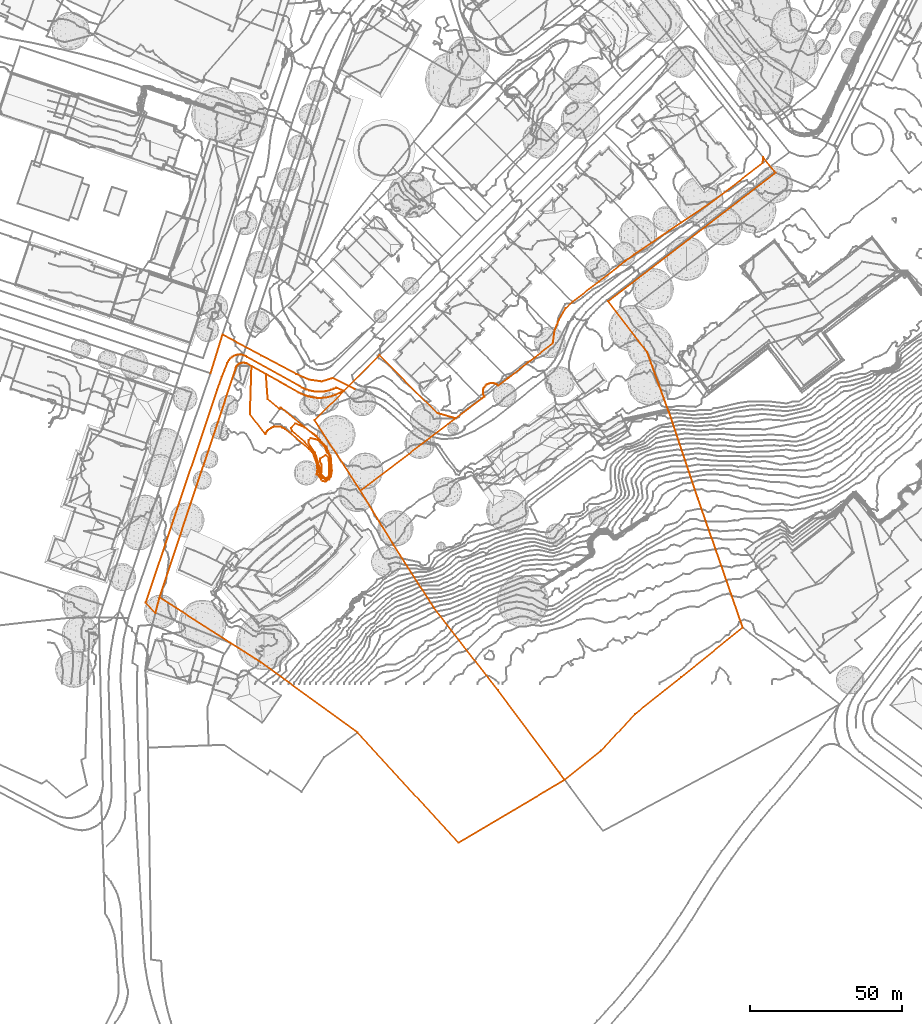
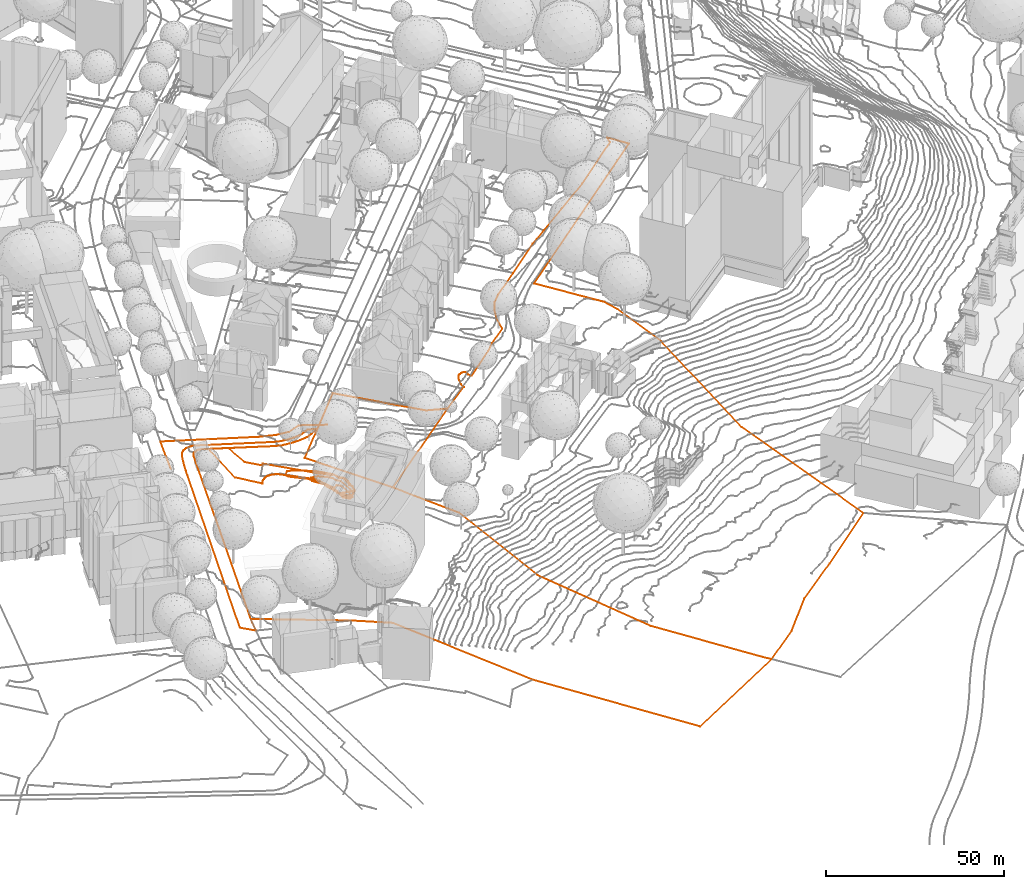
# Not in any storey, part 102 of 477: 6 geographic elements, 5 civil elements.
"""IFC4 model written with IfcOpenShell, lengths in metres."""

from ifc_helpers import new_model, entity, si_unit, frame, origin_with_axes, place, context, subcontext, project, spatial, element, save


model = new_model("IFC4")

# Units and contexts
model_context = context("Model", 3, precision=1e-05, world=origin_with_axes())
body_context = subcontext(model_context, "Body", "Model", "MODEL_VIEW")
ifc_project = project(units=[si_unit("AREAUNIT", "SQUARE_METRE"), si_unit("LENGTHUNIT", "METRE")], contexts=[model_context])

# Sites
site_1_placement = place(None, origin_with_axes())
site_1 = spatial("IfcSite", under=ifc_project, at=site_1_placement, Name="Topoexport Site")
site_2_placement = place(site_1_placement, origin_with_axes())
site_2 = spatial("IfcSite", under=site_1, at=site_2_placement, Name="TPX_ROADS")

# Civil elements
civil_element_1_placement = place(site_2_placement, frame((52.6617320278, 101.2267400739, 529.468), z_axis=(0.0, 0.0, 1.0), x_axis=(1.0, 0.0, 0.0)))
element("IfcCivilElement", 1, at=civil_element_1_placement, inside=site_2, Name="Road 51", ObjectType="ROAD", context=body_context, shape_type="GeometricCurveSet", body=[
    entity("IfcGeometricCurveSet", [entity("IfcIndexedPolyCurve", entity("IfcCartesianPointList3D", [[0.0, 0.0, 0.0], [3.9649999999, 12.7749996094, 0.321]]))]),
])
civil_element_2_placement = place(site_2_placement, frame((56.6267320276, 114.0017396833, 529.789), z_axis=(0.0, 0.0, 1.0), x_axis=(1.0, 0.0, 0.0)))
element("IfcCivilElement", 2, at=civil_element_2_placement, inside=site_2, Name="Road 144", ObjectType="ROAD", context=body_context, shape_type="GeometricCurveSet", body=[
    entity("IfcGeometricCurveSet", [entity("IfcIndexedPolyCurve", entity("IfcCartesianPointList3D", [[0.0, 0.0, 0.0], [12.7819999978, -6.8169997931, 0.502], [24.2289999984, -12.9209996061, 0.952], [28.6349999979, -14.8309995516, 1.174], [32.7459999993, -15.4179995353, 1.194], [36.4169999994, -14.2429995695, 1.405]]))]),
])
civil_element_3_placement = place(site_2_placement, frame((93.0437320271, 99.7587401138, 531.194), z_axis=(0.0, 0.0, 1.0), x_axis=(1.0, 0.0, 0.0)))
element("IfcCivilElement", 3, at=civil_element_3_placement, inside=site_2, Name="Road 152", ObjectType="ROAD", context=body_context, shape_type="GeometricCurveSet", body=[
    entity("IfcGeometricCurveSet", [entity("IfcIndexedPolyCurve", entity("IfcCartesianPointList3D", [[0.0, 0.0, 0.0], [7.1950000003, -3.6719998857, -0.081]]))]),
])

# Site
site_3_placement = place(site_1_placement, origin_with_axes())
site_3 = spatial("IfcSite", under=site_1, at=site_3_placement, Name="TPX_ROADS_OUTLINES")

# Civil elements
civil_element_4_placement = place(site_3_placement, frame((65.6917320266, 87.8627160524, 530.1721185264), z_axis=(0.0, 0.0, 1.0), x_axis=(1.0, 0.0, 0.0)))
element("IfcCivilElement", 4, at=civil_element_4_placement, inside=site_3, Name="Roads Outline 5", ObjectType="ROAD", context=body_context, shape_type="GeometricCurveSet", body=[
    entity("IfcGeometricCurveSet", [entity("IfcIndexedPolyCurve", entity("IfcCartesianPointList3D", [[0.0, 0.0, 0.0], [0.5130000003, 15.7679999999, 0.0338455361], [5.2779999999, 13.1140000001, 0.261026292], [5.855, 4.8470000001, 0.2600616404], [9.736, 1.571, -0.2818026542], [10.1660000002, 2.145, -0.1248423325], [22.4339999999, -8.068, -1.6127279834], [23.0970000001, -8.6580000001, -1.4725893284], [23.7150000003, -9.2930000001, -1.5986600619], [24.2860000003, -9.9720000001, -1.4724593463], [24.807, -10.6899999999, -1.5019773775], [25.3030000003, -11.4950000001, -0.9444887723], [25.736, -12.335, -1.0435754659], [26.102, -13.2069999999, -1.403093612], [26.3999999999, -14.1040000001, -0.6911966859], [26.6329999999, -15.0320000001, -0.4477806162], [26.7910000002, -15.9750000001, -0.4591269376], [26.8740000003, -16.9280000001, -0.4591866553], [26.8810000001, -17.885, -0.8025907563], [26.8289999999, -18.673, -0.780968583], [26.7260000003, -19.456, -0.5564165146], [26.571, -20.2309999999, -0.5767110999], [26.3670000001, -20.993, -0.6204464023], [26.1120000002, -21.7409999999, -0.5713972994], [25.9270000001, -21.665, -0.580164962], [22.1189999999, -20.0889999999, -0.9610308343], [21.9330000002, -20.0120000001, -0.9261870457], [22.0950000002, -19.423, -1.3556489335], [22.213, -18.8230000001, -1.5857013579], [22.2860000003, -18.216, -1.5670811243], [22.3140000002, -17.605, -1.7700222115], [22.2940000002, -16.9680000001, -1.9510494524], [22.2250000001, -16.335, -2.0730131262], [22.1070000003, -15.71, -2.1577706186], [21.9399999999, -15.095, -2.1484826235], [21.6830000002, -14.4240000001, -2.0581615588], [21.3640000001, -13.781, -1.9871576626], [20.986, -13.1710000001, -1.652196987], [20.551, -12.5989999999, -1.3839870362], [20.0640000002, -12.071, -1.144698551], [19.5290000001, -11.5919999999, -0.4269015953], [11.5980000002, -5.0109999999, 0.0112830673], [11.1430000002, -4.693, 0.0817293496], [10.6499999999, -4.439, 0.0984159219], [10.1269999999, -4.2520000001, 0.0967733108], [9.585, -4.1359999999, 0.1305304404], [9.031, -4.0930000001, 0.1258897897], [8.477, -4.1240000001, 0.1183343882], [7.932, -4.2280000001, 0.1759402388], [7.4190000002, -4.398, 0.2134765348], [6.932, -4.632, 0.2151942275], [6.48, -4.9269999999, 0.2046788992], [6.0690000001, -5.2779999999, 0.1727443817], [5.7069999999, -5.679, 0.1719773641], [5.3999999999, -6.1240000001, 0.1903218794], [5.1520000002, -6.6040000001, 0.1618089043], [4.969, -6.524, 0.1608507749], [0.0, 0.0, 0.0]]))]),
])
civil_element_5_placement = place(site_3_placement, frame((31.3317320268, 25.6087160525, 528.5172780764), z_axis=(0.0, 0.0, 1.0), x_axis=(1.0, 0.0, 0.0)))
element("IfcCivilElement", 5, at=civil_element_5_placement, inside=site_3, Name="Roads Outline 11", ObjectType="ROAD", context=body_context, shape_type="GeometricCurveSet", body=[
    entity("IfcGeometricCurveSet", [entity("IfcIndexedPolyCurve", entity("IfcCartesianPointList3D", [[0.0, 0.0, 0.0], [23.551, 70.165, 1.1981964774], [24.2880000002, 72.3199999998, 1.2486813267], [25.0669999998, 74.46, 1.2780287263], [25.9529999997, 76.7449999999, 1.3423059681], [26.8900000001, 79.01, 1.3856055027], [27.1260000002, 79.5459999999, 1.382832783], [27.4339999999, 80.0459999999, 1.4010026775], [27.8059999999, 80.4989999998, 1.4265829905], [28.236, 80.8969999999, 1.4369361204], [28.716, 81.233, 1.451369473], [29.2379999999, 81.5009999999, 1.4669401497], [29.7909999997, 81.6949999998, 1.4810749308], [30.2579999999, 81.797, 1.4937965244], [30.7340000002, 81.845, 1.5085522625], [31.2119999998, 81.841, 1.5186594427], [31.6869999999, 81.784, 1.5275002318], [32.1519999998, 81.6739999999, 1.5290784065], [32.6179999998, 81.507, 1.5296960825], [33.0619999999, 81.2879999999, 1.5427963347], [33.477, 81.0179999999, 1.5646540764], [50.699, 71.4539999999, 2.4177189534], [51.4709999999, 71.014, 2.4647378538], [52.2710000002, 70.6299999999, 2.499819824], [53.0970000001, 70.3029999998, 2.5440938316], [53.943, 70.034, 2.5790860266], [54.8059999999, 69.825, 2.6166156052], [55.716, 69.6739999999, 2.6498947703], [56.6340000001, 69.5889999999, 2.6801726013], [57.5559999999, 69.5699999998, 2.6975659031], [58.477, 69.6189999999, 2.7155324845], [59.392, 69.7339999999, 2.7243952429], [60.2889999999, 69.9439999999, 2.749862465], [61.1699999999, 70.213, 2.7743457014], [62.031, 70.5379999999, 2.7730193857], [62.8700000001, 70.919, 2.7851582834], [65.2889999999, 69.8589999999, 2.8338857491], [62.5890000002, 68.615, 2.6965142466], [61.7999999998, 68.3, 2.6796508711], [60.9920000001, 68.0379999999, 2.6849713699], [60.1680000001, 67.8289999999, 2.7335690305], [59.3330000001, 67.675, 2.7725246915], [58.4890000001, 67.575, 2.7869623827], [57.4869999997, 67.5289999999, 2.7695924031], [56.4840000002, 67.5600000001, 2.7362431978], [55.486, 67.669, 2.6776107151], [54.5, 67.8540000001, 2.6307313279], [53.6579999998, 68.0419999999, 2.5827809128], [52.8309999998, 68.2849999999, 2.5178027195], [52.0219999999, 68.5819999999, 2.4976904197], [51.2340000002, 68.932, 2.4338487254], [50.4709999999, 69.334, 2.4014606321], [39.6379999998, 75.368, 1.9158667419], [34.8730000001, 78.0219999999, 1.6886859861], [33.4539999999, 78.8129999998, 1.600644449], [33.1090000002, 78.987, 1.5933528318], [32.7420000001, 79.105, 1.5855703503], [32.3599999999, 79.166, 1.5659167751], [31.9739999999, 79.1669999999, 1.5457688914], [31.5920000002, 79.1089999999, 1.5252182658], [31.2239999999, 78.9919999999, 1.5056748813], [30.8760000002, 78.831, 1.4899875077], [30.557, 78.6189999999, 1.4802681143], [30.2739999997, 78.3599999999, 1.4710618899], [30.034, 78.061, 1.4620793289], [29.8429999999, 77.7290000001, 1.452834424], [29.7039999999, 77.372, 1.4445892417], [4.5079999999, 1.7009999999, 0.4025342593], [3.1839999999, -3.432, -0.0044481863], [0.0, 0.0, 0.0]]))]),
])

# Site
site_4_placement = place(site_1_placement, origin_with_axes())
site_4 = spatial("IfcSite", under=site_1, at=site_4_placement, Name="TPX_CADASTRES")

# Geographic elements
geographic_element_1_placement = place(site_4_placement, frame((35.8397320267, 27.3097160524, 528.9198123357), z_axis=(0.0, 0.0, 1.0), x_axis=(1.0, 0.0, 0.0)))
element("IfcGeographicElement", 6, at=geographic_element_1_placement, inside=site_4, Name="Cadastre 90", PredefinedType="NOTDEFINED", context=body_context, shape_type="GeometricCurveSet", body=[
    entity("IfcGeometricCurveSet", [entity("IfcIndexedPolyCurve", entity("IfcCartesianPointList3D", [[0.0, 0.0, 0.0], [25.196, 75.6710000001, 1.0420549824], [25.335, 76.0280000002, 1.0503001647], [25.5260000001, 76.3600000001, 1.0595450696], [25.7659999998, 76.659, 1.0685276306], [26.0490000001, 76.9180000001, 1.077733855], [26.3680000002, 77.1300000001, 1.0874532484], [26.716, 77.291, 1.1031406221], [27.0840000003, 77.4080000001, 1.1226840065], [27.466, 77.466, 1.1432346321], [27.852, 77.4650000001, 1.1633825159], [28.2340000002, 77.4040000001, 1.1830360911], [28.6010000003, 77.2860000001, 1.1908185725], [28.946, 77.112, 1.1981101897], [45.963, 67.6330000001, 1.9989263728], [46.7260000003, 67.2310000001, 2.0313144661], [47.514, 66.8810000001, 2.0951561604], [48.3229999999, 66.584, 2.1152684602], [49.1499999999, 66.341, 2.1802466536], [49.9920000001, 66.1530000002, 2.2281970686], [50.9780000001, 65.9680000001, 2.2750764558], [51.9760000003, 65.8590000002, 2.3337089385], [52.9789999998, 65.828, 2.3670581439], [53.9810000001, 65.8740000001, 2.3844281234], [54.8250000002, 65.9740000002, 2.3699904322], [55.6600000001, 66.128, 2.3310347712], [56.4840000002, 66.3370000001, 2.2824371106], [57.2919999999, 66.5990000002, 2.2771166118], [58.0810000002, 66.9140000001, 2.2939799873], [60.9909999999, 68.2550000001, 2.440349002], [51.2009999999, 58.5420000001, 1.6569705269], [66.327, 35.2709999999, 0.3445971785], [77.3340000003, 17.2390000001, -1.2014758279], [90.6699999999, -3.5259999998, -14.573134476], [111.6660000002, -30.578, -22.9106450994], [131.9610000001, -57.7339999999, -24.0988105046], [133.7310000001, -60.1639999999, -24.0894003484], [98.6839999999, -80.9039999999, -22.2397467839], [65.4199999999, -44.5600000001, -16.6383814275], [33.4760000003, -21.443, -0.0451216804], [23.6779999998, -15.1639999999, 0.378507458], [0.0, 0.0, 0.0]]))]),
])
geographic_element_2_placement = place(site_4_placement, frame((102.1667320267, 62.5807160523, 529.2644095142), z_axis=(0.0, 0.0, 1.0), x_axis=(1.0, 0.0, 0.0)))
element("IfcGeographicElement", 7, at=geographic_element_2_placement, inside=site_4, Name="Cadastre 93", PredefinedType="NOTDEFINED", context=body_context, shape_type="GeometricCurveSet", body=[
    entity("IfcGeometricCurveSet", [entity("IfcIndexedPolyCurve", entity("IfcCartesianPointList3D", [[0.0, 0.0, 0.0], [31.4279999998, 23.848, 1.5576566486], [39.9670000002, 30.3200000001, 1.4281709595], [40.8969999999, 31.03, 1.3230256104], [40.6740000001, 31.4540000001, 1.4578496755], [40.523, 31.9080000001, 1.8262137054], [40.449, 32.3810000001, 2.27642148], [40.4530000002, 32.8600000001, 2.6594337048], [40.5359999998, 33.3320000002, 2.8537439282], [40.6949999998, 33.7830000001, 2.8698311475], [40.926, 34.2030000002, 2.8816245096], [41.2229999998, 34.5790000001, 2.8896372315], [41.577, 34.9010000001, 2.895335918], [41.9759999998, 35.1590000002, 2.8988881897], [42.4109999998, 35.348, 2.8978973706], [42.8709999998, 35.4640000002, 2.8918779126], [43.344, 35.5040000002, 2.8047201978], [43.818, 35.466, 2.6692175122], [44.2779999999, 35.3520000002, 2.3379484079], [44.7140000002, 35.165, 1.7410820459], [45.1140000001, 34.9090000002, 1.3685524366], [45.4670000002, 34.591, 1.4858642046], [48.6770000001, 37.0920000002, 1.557079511], [55.176, 42.1440000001, 1.9046598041], [57.3859999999, 43.8650000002, 2.703374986], [63.426, 48.5560000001, 2.7774298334], [64.0260000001, 52.7270000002, 3.4549306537], [65.466, 56.4680000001, 3.5007206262], [67.6660000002, 60.1390000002, 3.3792201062], [69.9759999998, 62.2790000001, 3.7064632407], [78.7250000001, 69.0220000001, 3.9945995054], [87.355, 75.6740000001, 4.4274226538], [90.2250000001, 77.885, 4.6369138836], [95.9739999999, 81.7660000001, 4.7475556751], [105.8029999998, 88.3990000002, 4.966612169], [116.503, 95.611, 5.2884707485], [132.6869999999, 108.0860000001, 6.267161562], [132.841, 110.0560000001, 6.488893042], [136.8909999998, 104.8560000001, 6.1319225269], [81.6940000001, 62.4510000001, 3.3544682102], [94.591, 45.6600000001, 2.7719029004], [96.3110000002, 40.9100000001, 2.4708180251], [101.7390000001, 25.9710000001, -1.2275680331], [111.3560000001, -2.6189999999, -16.6664958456], [126.1310000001, -45.1679999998, -25.4623999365], [105.7220000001, -61.6039999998, -25.5795038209], [90.5430000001, -73.7279999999, -24.9655506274], [79.4330000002, -85.8019999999, -24.8659850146], [67.4040000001, -95.4349999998, -24.4339975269], [65.6340000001, -93.0049999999, -24.4434076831], [45.3390000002, -65.8489999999, -23.2552422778], [24.3429999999, -38.7969999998, -14.9177316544], [11.0070000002, -18.0319999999, -1.5460730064], [0.0, 0.0, 0.0]]))]),
])
geographic_element_3_placement = place(site_4_placement, frame((87.0407320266, 85.8517160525, 530.5767828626), z_axis=(0.0, 0.0, 1.0), x_axis=(1.0, 0.0, 0.0)))
element("IfcGeographicElement", 8, at=geographic_element_3_placement, inside=site_4, Name="Cadastre 105", PredefinedType="NOTDEFINED", context=body_context, shape_type="GeometricCurveSet", body=[
    entity("IfcGeometricCurveSet", [entity("IfcIndexedPolyCurve", entity("IfcCartesianPointList3D", [[0.0, 0.0, 0.0], [9.79, 9.713, 0.783378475], [21.449, 21.3659999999, 1.6842178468], [40.5250000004, 2.2459999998, 0.6919427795], [46.554, 0.5769999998, 0.2452833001], [15.1260000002, -23.2710000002, -1.3123733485], [0.0, 0.0, 0.0]]))]),
])

# Site
site_5_placement = place(site_1_placement, origin_with_axes())
site_5 = spatial("IfcSite", under=site_1, at=site_5_placement, Name="TPX_CONTOUR_LINES")

# Geographic elements
geographic_element_4_placement = place(site_5_placement, frame((88.8969702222, 72.1707160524, 527.0), z_axis=(0.0, 0.0, 1.0), x_axis=(1.0, 0.0, 0.0)))
element("IfcGeographicElement", 9, at=geographic_element_4_placement, inside=site_5, Name="Contour Line 527.0 m", PredefinedType="NOTDEFINED", context=body_context, shape_type="GeometricCurveSet", body=[
    entity("IfcGeometricCurveSet", [entity("IfcIndexedPolyCurve", entity("IfcCartesianPointList3D", [[2.7807618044, -5.0567718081, 0.0], [2.9955333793, -3.0, 0.0], [2.7807618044, 1.1629881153, 0.0], [1.7807618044, 2.0611664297, 0.0], [0.0277365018, 1.0, 0.0], [0.0, 0.0, 0.0], [0.3924715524, -1.0, 0.0], [0.3584754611, -4.0, 0.0], [1.7807618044, -5.5221163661, 0.0], [2.7807618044, -5.0567718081, 0.0]]))]),
])
geographic_element_5_placement = place(site_5_placement, frame((85.0187261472, 79.1707160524, 528.0), z_axis=(0.0, 0.0, 1.0), x_axis=(1.0, 0.0, 0.0)))
element("IfcGeographicElement", 10, at=geographic_element_5_placement, inside=site_5, Name="Contour Line 528.0 m", PredefinedType="NOTDEFINED", context=body_context, shape_type="GeometricCurveSet", body=[
    entity("IfcGeometricCurveSet", [entity("IfcIndexedPolyCurve", entity("IfcCartesianPointList3D", [[5.6590058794, -13.1690418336, 0.0], [7.0799014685, -12.0, 0.0], [7.2790311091, -10.0, 0.0], [6.9764429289, -5.0, 0.0], [6.0617639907, -4.0, 0.0], [5.6590058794, -2.6024170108, 0.0], [4.6590058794, -1.3849798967, 0.0], [2.6590058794, 0.2603864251, 0.0], [0.6590058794, 0.6793388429, 0.0], [0.0, 0.0, 0.0], [0.014679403, -1.0, 0.0], [2.1593227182, -4.0, 0.0], [3.6811827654, -9.0, 0.0], [3.7493470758, -11.0, 0.0], [4.6590058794, -12.4441842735, 0.0], [5.6590058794, -13.1690418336, 0.0]]))]),
])
geographic_element_6_placement = place(site_5_placement, frame((79.2661080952, 83.1707160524, 529.0), z_axis=(0.0, 0.0, 1.0), x_axis=(1.0, 0.0, 0.0)))
element("IfcGeographicElement", 11, at=geographic_element_6_placement, inside=site_5, Name="Contour Line 529.0 m", PredefinedType="NOTDEFINED", context=body_context, shape_type="GeometricCurveSet", body=[
    entity("IfcGeometricCurveSet", [entity("IfcIndexedPolyCurve", entity("IfcCartesianPointList3D", [[11.4116239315, -17.7070335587, 0.0], [13.19734617, -16.0, 0.0], [13.4999787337, -14.0, 0.0], [13.1810016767, -13.0, 0.0], [13.1164353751, -9.0, 0.0], [12.3187223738, -8.0, 0.0], [11.6651606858, -6.0, 0.0], [8.4116239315, -2.606060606, 0.0], [4.4116239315, 0.2492962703, 0.0], [1.4116239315, 1.5848101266, 0.0], [0.0, 0.0, 0.0], [0.3957941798, -1.0, 0.0], [4.4116239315, -4.5106097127, 0.0], [6.7962550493, -7.0, 0.0], [8.5977562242, -12.0, 0.0], [8.7630816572, -15.0, 0.0], [9.9446599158, -17.0, 0.0], [10.4116239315, -17.4447404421, 0.0], [11.4116239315, -17.7070335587, 0.0]]))]),
])

save(model, "model.ifc")
